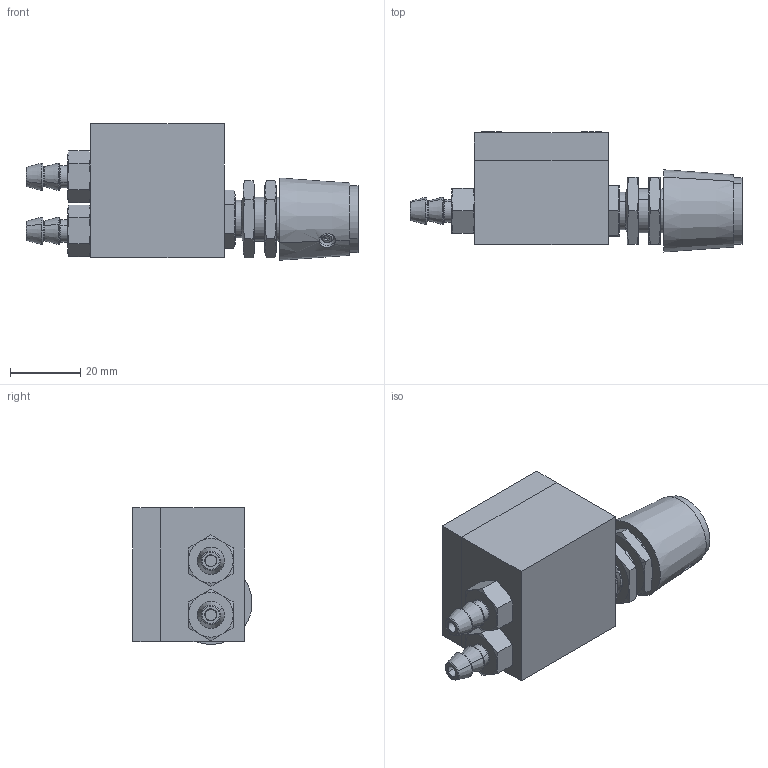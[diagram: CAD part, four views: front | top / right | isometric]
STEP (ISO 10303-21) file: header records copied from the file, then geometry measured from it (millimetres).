
FILE_DESCRIPTION (( 'STEP AP203' ), '1' );
FILE_NAME ('FCA8744-5-0-A-0.STEP', '2022-08-03T15:38:31', ( '' ), ( '' ), 'SwSTEP 2.0', 'SolidWorks 2020', '' );
FILE_SCHEMA (( 'CONFIG_CONTROL_DESIGN' ));
Length unit declared in the file: inch
Products named in the file (1): FCA8744-5-0-A-0
Bounding box: 94.43 x 34.1 x 38.85 mm (x, y, z)
Volume: 56868.6 mm3; surface area: 20418.1 mm2
Topology: 2 solids, 3 shells, 504 faces, 1204 edges, 751 vertices
Faces by surface type: cone 168, cylinder 157, plane 131, torus 36, bspline 12
Entity records: 25943 total; most frequent: CARTESIAN_POINT 14725, ORIENTED_EDGE 2404, DIRECTION 2242, EDGE_CURVE 1202, AXIS2_PLACEMENT_3D 936, VERTEX_POINT 751, EDGE_LOOP 563, ADVANCED_FACE 504
